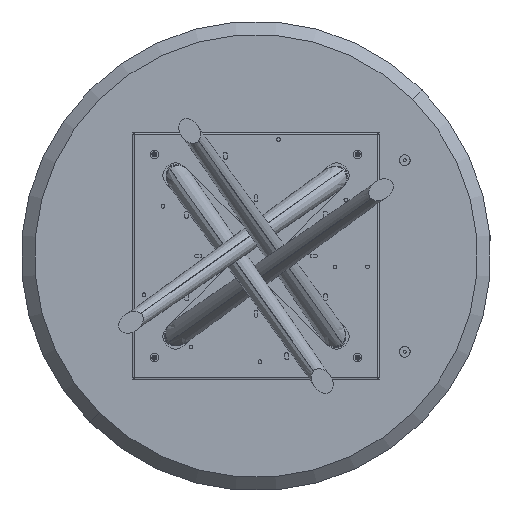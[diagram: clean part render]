
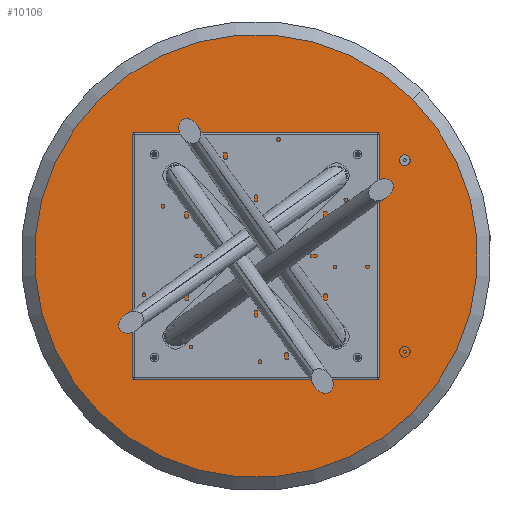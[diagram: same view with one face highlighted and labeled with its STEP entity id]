
A CAD part, front view. The second image highlights one B-rep face of the part: STEP entity #10106.
In plain terms, the highlighted planar face has unit normal (0, -1, 0).
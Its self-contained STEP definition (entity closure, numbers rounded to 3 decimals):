
#46 = VERTEX_POINT ( 'NONE', #2846 ) ;
#56 = FACE_BOUND ( 'NONE', #8199, .T. ) ;
#68 = VERTEX_POINT ( 'NONE', #369 ) ;
#144 = DIRECTION ( 'NONE',  ( 0., 0., -1. ) ) ;
#369 = CARTESIAN_POINT ( 'NONE',  ( 0., 0., 613. ) ) ;
#481 = CARTESIAN_POINT ( 'NONE',  ( 0., 0., -397.5 ) ) ;
#540 = AXIS2_PLACEMENT_3D ( 'NONE', #915, #15927, #16124 ) ;
#644 = AXIS2_PLACEMENT_3D ( 'NONE', #18510, #8311, #6751 ) ;
#818 = DIRECTION ( 'NONE',  ( 0., 0., -1. ) ) ;
#915 = CARTESIAN_POINT ( 'NONE',  ( 0., 0., 397.5 ) ) ;
#998 = EDGE_CURVE ( 'NONE', #8778, #46, #12042, .T. ) ;
#1479 = CARTESIAN_POINT ( 'NONE',  ( -397.5, 0., -3.4 ) ) ;
#1565 = CIRCLE ( 'NONE', #644, 613. ) ;
#1803 = EDGE_CURVE ( 'NONE', #68, #2371, #14643, .T. ) ;
#1914 = CARTESIAN_POINT ( 'NONE',  ( 0., 0., -397.5 ) ) ;
#1977 = CARTESIAN_POINT ( 'NONE',  ( 0., 0., -613. ) ) ;
#2054 = FACE_BOUND ( 'NONE', #17888, .T. ) ;
#2101 = DIRECTION ( 'NONE',  ( 0., 0., -1. ) ) ;
#2371 = VERTEX_POINT ( 'NONE', #1977 ) ;
#2700 = AXIS2_PLACEMENT_3D ( 'NONE', #481, #18628, #14207 ) ;
#2712 = EDGE_CURVE ( 'NONE', #6576, #15861, #11171, .T. ) ;
#2846 = CARTESIAN_POINT ( 'NONE',  ( -397.5, 0., 3.4 ) ) ;
#2920 = DIRECTION ( 'NONE',  ( 0., -1., 0. ) ) ;
#3568 = AXIS2_PLACEMENT_3D ( 'NONE', #9545, #15222, #8075 ) ;
#3999 = EDGE_CURVE ( 'NONE', #16803, #10099, #12958, .T. ) ;
#4199 = AXIS2_PLACEMENT_3D ( 'NONE', #15361, #6743, #9482 ) ;
#4205 = EDGE_CURVE ( 'NONE', #46, #8778, #6402, .T. ) ;
#4517 = DIRECTION ( 'NONE',  ( 0., 0., -1. ) ) ;
#4888 = EDGE_CURVE ( 'NONE', #12815, #18522, #6280, .T. ) ;
#5035 = PLANE ( 'NONE',  #16932 ) ;
#5189 = ORIENTED_EDGE ( 'NONE', *, *, #2712, .F. ) ;
#5403 = ORIENTED_EDGE ( 'NONE', *, *, #4888, .F. ) ;
#5411 = DIRECTION ( 'NONE',  ( 0., 0., -1. ) ) ;
#5930 = CARTESIAN_POINT ( 'NONE',  ( 0., 0., -394.1 ) ) ;
#6278 = EDGE_CURVE ( 'NONE', #18522, #12815, #8068, .T. ) ;
#6280 = CIRCLE ( 'NONE', #15344, 3.4 ) ;
#6376 = CIRCLE ( 'NONE', #6678, 3.4 ) ;
#6402 = CIRCLE ( 'NONE', #4199, 3.4 ) ;
#6576 = VERTEX_POINT ( 'NONE', #5930 ) ;
#6678 = AXIS2_PLACEMENT_3D ( 'NONE', #12385, #6711, #15321 ) ;
#6711 = DIRECTION ( 'NONE',  ( 0., -1., 0. ) ) ;
#6743 = DIRECTION ( 'NONE',  ( 0., -1., 0. ) ) ;
#6751 = DIRECTION ( 'NONE',  ( 0., 0., -1. ) ) ;
#7108 = DIRECTION ( 'NONE',  ( 0., -1., 0. ) ) ;
#7282 = CARTESIAN_POINT ( 'NONE',  ( 0., 0., 0. ) ) ;
#7619 = DIRECTION ( 'NONE',  ( 0., -1., 0. ) ) ;
#8068 = CIRCLE ( 'NONE', #540, 3.4 ) ;
#8075 = DIRECTION ( 'NONE',  ( 0., 0., -1. ) ) ;
#8163 = FACE_BOUND ( 'NONE', #18928, .T. ) ;
#8199 = EDGE_LOOP ( 'NONE', ( #11446, #19127 ) ) ;
#8311 = DIRECTION ( 'NONE',  ( 0., -1., 0. ) ) ;
#8443 = CARTESIAN_POINT ( 'NONE',  ( 397.5, 0., 0. ) ) ;
#8778 = VERTEX_POINT ( 'NONE', #1479 ) ;
#9073 = EDGE_LOOP ( 'NONE', ( #12649, #16473 ) ) ;
#9182 = EDGE_LOOP ( 'NONE', ( #12460, #5189 ) ) ;
#9482 = DIRECTION ( 'NONE',  ( 0., 0., -1. ) ) ;
#9545 = CARTESIAN_POINT ( 'NONE',  ( -397.5, 0., 0. ) ) ;
#9593 = CARTESIAN_POINT ( 'NONE',  ( 0., 0., -400.9 ) ) ;
#9745 = CARTESIAN_POINT ( 'NONE',  ( 0., 0., 397.5 ) ) ;
#9885 = ORIENTED_EDGE ( 'NONE', *, *, #6278, .F. ) ;
#9921 = EDGE_CURVE ( 'NONE', #2371, #68, #1565, .T. ) ;
#10004 = DIRECTION ( 'NONE',  ( 0., -1., 0. ) ) ;
#10099 = VERTEX_POINT ( 'NONE', #18555 ) ;
#10106 = ADVANCED_FACE ( 'NONE', ( #18459, #12578, #2054, #56, #8163 ), #5035, .T. ) ;
#11051 = ORIENTED_EDGE ( 'NONE', *, *, #998, .F. ) ;
#11171 = CIRCLE ( 'NONE', #2700, 3.4 ) ;
#11446 = ORIENTED_EDGE ( 'NONE', *, *, #3999, .F. ) ;
#11685 = CARTESIAN_POINT ( 'NONE',  ( 0., 0., 394.1 ) ) ;
#11711 = AXIS2_PLACEMENT_3D ( 'NONE', #8443, #10004, #5411 ) ;
#12042 = CIRCLE ( 'NONE', #3568, 3.4 ) ;
#12385 = CARTESIAN_POINT ( 'NONE',  ( 397.5, 0., 0. ) ) ;
#12460 = ORIENTED_EDGE ( 'NONE', *, *, #16396, .F. ) ;
#12578 = FACE_BOUND ( 'NONE', #9182, .T. ) ;
#12649 = ORIENTED_EDGE ( 'NONE', *, *, #1803, .T. ) ;
#12815 = VERTEX_POINT ( 'NONE', #12957 ) ;
#12957 = CARTESIAN_POINT ( 'NONE',  ( 0., 0., 400.9 ) ) ;
#12958 = CIRCLE ( 'NONE', #11711, 3.4 ) ;
#13939 = EDGE_CURVE ( 'NONE', #10099, #16803, #6376, .T. ) ;
#14207 = DIRECTION ( 'NONE',  ( 0., 0., -1. ) ) ;
#14643 = CIRCLE ( 'NONE', #16227, 613. ) ;
#15222 = DIRECTION ( 'NONE',  ( 0., -1., 0. ) ) ;
#15321 = DIRECTION ( 'NONE',  ( 0., 0., -1. ) ) ;
#15344 = AXIS2_PLACEMENT_3D ( 'NONE', #9745, #7108, #818 ) ;
#15361 = CARTESIAN_POINT ( 'NONE',  ( -397.5, 0., 0. ) ) ;
#15606 = CARTESIAN_POINT ( 'NONE',  ( 0., 0., 0. ) ) ;
#15861 = VERTEX_POINT ( 'NONE', #9593 ) ;
#15927 = DIRECTION ( 'NONE',  ( 0., -1., 0. ) ) ;
#16124 = DIRECTION ( 'NONE',  ( 0., 0., -1. ) ) ;
#16131 = AXIS2_PLACEMENT_3D ( 'NONE', #1914, #18401, #2101 ) ;
#16227 = AXIS2_PLACEMENT_3D ( 'NONE', #7282, #2920, #4517 ) ;
#16396 = EDGE_CURVE ( 'NONE', #15861, #6576, #17374, .T. ) ;
#16473 = ORIENTED_EDGE ( 'NONE', *, *, #9921, .T. ) ;
#16803 = VERTEX_POINT ( 'NONE', #18092 ) ;
#16932 = AXIS2_PLACEMENT_3D ( 'NONE', #15606, #7619, #144 ) ;
#17155 = ORIENTED_EDGE ( 'NONE', *, *, #4205, .F. ) ;
#17374 = CIRCLE ( 'NONE', #16131, 3.4 ) ;
#17888 = EDGE_LOOP ( 'NONE', ( #11051, #17155 ) ) ;
#18092 = CARTESIAN_POINT ( 'NONE',  ( 397.5, 0., -3.4 ) ) ;
#18401 = DIRECTION ( 'NONE',  ( 0., -1., 0. ) ) ;
#18459 = FACE_OUTER_BOUND ( 'NONE', #9073, .T. ) ;
#18510 = CARTESIAN_POINT ( 'NONE',  ( 0., 0., 0. ) ) ;
#18522 = VERTEX_POINT ( 'NONE', #11685 ) ;
#18555 = CARTESIAN_POINT ( 'NONE',  ( 397.5, 0., 3.4 ) ) ;
#18628 = DIRECTION ( 'NONE',  ( 0., -1., 0. ) ) ;
#18928 = EDGE_LOOP ( 'NONE', ( #9885, #5403 ) ) ;
#19127 = ORIENTED_EDGE ( 'NONE', *, *, #13939, .F. ) ;
